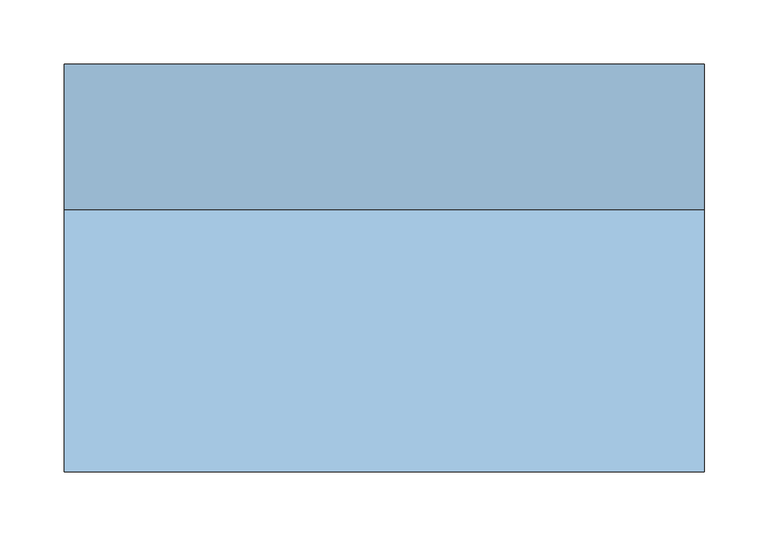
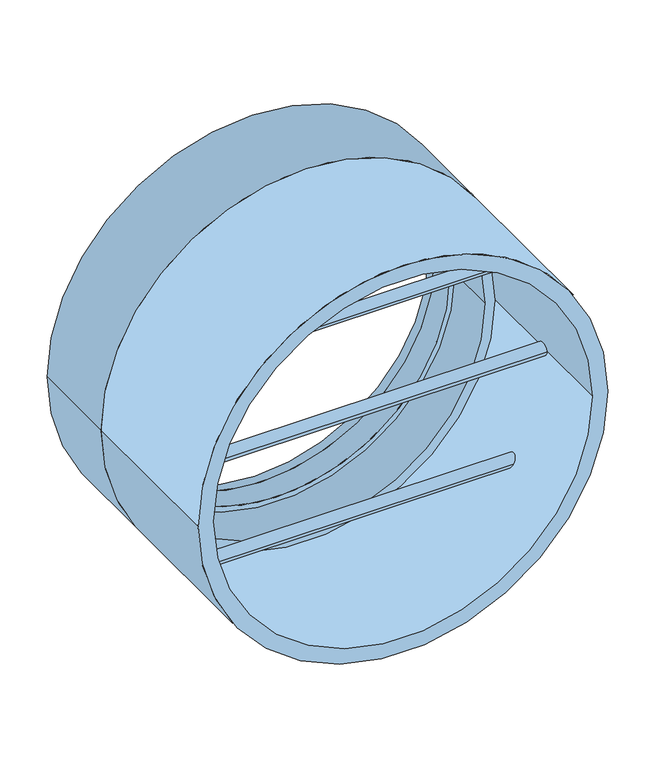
"""IFC4 building model written with IfcOpenShell, lengths in millimetres: window geometry, VENTANA_CAÑO_500 : CAÑO_500mm."""

from ifc_helpers import new_model, si_unit, point, frame, frame_2d, origin, place, context, project, spatial, polyline, circle_curve, trimmed, segment, composite_curve, outline, extrude, source, transform, mapped, element, save
from ifc_brep_helpers import plane_surface, cylinder_surface, revolved_surface, advanced_brep


def window_e00e36fa(model_context):
    return source(origin(), model_context, "Body", "SolidModel", [
        extrude(outline(composite_curve([segment(trimmed(circle_curve(frame_2d((1450.0, 0.0)), 237.3), [point((1450.0, 237.3))], [point((1450.0, -237.3))], False, "CARTESIAN"), True, "CONTINUOUS"), segment(trimmed(circle_curve(frame_2d((1450.0, 0.0)), 237.3), [point((1450.0, -237.3))], [point((1450.0, 237.3))], False, "CARTESIAN"), True, "CONTINUOUS")], self_intersect=False), holes=[composite_curve([segment(trimmed(circle_curve(frame_2d((1450.0, 0.0)), 211.9), [point((1450.0, -211.9))], [point((1450.0, 211.9))], True, "CARTESIAN"), True, "CONTINUOUS"), segment(trimmed(circle_curve(frame_2d((1450.0, 0.0)), 211.9), [point((1450.0, 211.9))], [point((1450.0, -211.9))], True, "CARTESIAN"), True, "CONTINUOUS")], self_intersect=False)]), frame((0.0, 118.25, 0.0), z_axis=(0.0, 1.0, 0.0), x_axis=(0.0, 0.0, 1.0)), (0.0, 0.0, 1.0), 31.75),
        extrude(outline(composite_curve([segment(trimmed(circle_curve(frame_2d((1450.0, 0.0)), 250.0), [point((1450.0, 250.0))], [point((1450.0, -250.0))], False, "CARTESIAN"), True, "CONTINUOUS"), segment(trimmed(circle_curve(frame_2d((1450.0, 0.0)), 250.0), [point((1450.0, -250.0))], [point((1450.0, 250.0))], False, "CARTESIAN"), True, "CONTINUOUS")], self_intersect=False), holes=[composite_curve([segment(trimmed(circle_curve(frame_2d((1450.0, 0.0)), 230.95), [point((1450.0, -230.95))], [point((1450.0, 230.95))], True, "CARTESIAN"), True, "CONTINUOUS"), segment(trimmed(circle_curve(frame_2d((1450.0, 0.0)), 230.95), [point((1450.0, 230.95))], [point((1450.0, -230.95))], True, "CARTESIAN"), True, "CONTINUOUS")], self_intersect=False)]), frame((0.0, -150.0, 0.0), z_axis=(0.0, 1.0, 0.0), x_axis=(0.0, 0.0, 1.0)), (0.0, 0.0, 1.0), 204.75),
        advanced_brep(
        [(-237.3, 118.25, 1450.0), (237.3, 118.25, 1450.0), (237.3, 169.05, 1450.0), (-237.3, 169.05, 1450.0), (-250.0, 169.05, 1450.0), (250.0, 169.05, 1450.0), (218.25, 118.25, 1450.0), (-218.25, 118.25, 1450.0), (-218.25, 54.75, 1450.0), (218.25, 54.75, 1450.0), (250.0, 54.75, 1450.0), (-250.0, 54.75, 1450.0)],
        [
            (0, 1, circle_curve(frame((0.0, 118.25, 1450.0), z_axis=(0.0, -1.0, 0.0), x_axis=(1.0, 0.0, 0.0)), 237.3)),
            (1, 2),
            (2, 3, circle_curve(frame((0.0, 169.05, 1450.0), z_axis=(0.0, 1.0, 0.0), x_axis=(1.0, 0.0, 0.0)), 237.3)),
            (3, 0),
            (1, 0, circle_curve(frame((0.0, 118.25, 1450.0), z_axis=(0.0, -1.0, 0.0), x_axis=(-1.0, 0.0, 0.0)), 237.3)),
            (3, 2, circle_curve(frame((0.0, 169.05, 1450.0), z_axis=(0.0, 1.0, 0.0), x_axis=(-1.0, 0.0, 0.0)), 237.3)),
            (4, 5, circle_curve(frame((0.0, 169.05, 1450.0), z_axis=(0.0, 1.0, 0.0), x_axis=(-1.0, 0.0, 0.0)), 250.0)),
            (5, 4, circle_curve(frame((0.0, 169.05, 1450.0), z_axis=(0.0, 1.0, 0.0), x_axis=(1.0, 0.0, 0.0)), 250.0)),
            (6, 7, circle_curve(frame((0.0, 118.25, 1450.0), z_axis=(0.0, -1.0, 0.0), x_axis=(-1.0, 0.0, 0.0)), 218.25)),
            (7, 6, circle_curve(frame((0.0, 118.25, 1450.0), z_axis=(0.0, -1.0, 0.0), x_axis=(1.0, 0.0, 0.0)), 218.25)),
            (8, 9, circle_curve(frame((0.0, 54.75, 1450.0), z_axis=(0.0, -1.0, 0.0), x_axis=(1.0, 0.0, 0.0)), 218.25)),
            (9, 6),
            (7, 8),
            (5, 10),
            (10, 11, circle_curve(frame((0.0, 54.75, 1450.0), z_axis=(0.0, 1.0, 0.0), x_axis=(1.0, 0.0, 0.0)), 250.0)),
            (11, 4),
            (9, 8, circle_curve(frame((0.0, 54.75, 1450.0), z_axis=(0.0, -1.0, 0.0), x_axis=(-1.0, 0.0, 0.0)), 218.25)),
            (10, 11, circle_curve(frame((0.0, 54.75, 1450.0), z_axis=(0.0, -1.0, 0.0), x_axis=(-1.0, 0.0, 0.0)), 250.0)),
        ],
        [
            revolved_surface(polyline([(237.3, 169.05, 1450.0), (237.3, 118.25, 1450.0)]), (0.0, 162.7, 1450.0), (0.0, 1.0, 0.0)),
            revolved_surface(polyline([(-237.3, 169.05, 1450.0), (-237.3, 118.25, 1450.0)]), (0.0, 162.7, 1450.0), (0.0, 1.0, 0.0)),
            plane_surface(frame((0.0, 169.05, 1450.0), z_axis=(0.0, 1.0, 0.0), x_axis=(-1.0, 0.0, 0.0))),
            plane_surface(frame((0.0, 118.25, 1450.0), z_axis=(0.0, 1.0, 0.0), x_axis=(-1.0, 0.0, 0.0))),
            revolved_surface(polyline([(218.25, 118.25, 1450.0), (218.25, 54.75, 1450.0)]), (0.0, 162.7, 1450.0), (0.0, 1.0, 0.0)),
            cylinder_surface(frame((0.0, 162.7, 1450.0), z_axis=(0.0, 1.0, 0.0), x_axis=(1.0, 0.0, 0.0)), 250.0),
            revolved_surface(polyline([(-218.25, 118.25, 1450.0), (-218.25, 54.75, 1450.0)]), (0.0, 162.7, 1450.0), (0.0, 1.0, 0.0)),
            plane_surface(frame((0.0, 54.75, 1450.0), z_axis=(0.0, -1.0, 0.0), x_axis=(-1.0, 0.0, 0.0))),
            cylinder_surface(frame((0.0, 162.7, 1450.0), z_axis=(0.0, 1.0, 0.0), x_axis=(-1.0, 0.0, 0.0)), 250.0),
        ],
        [
            (0, [[1, 2, 3, 4]]),
            (1, [[5, -4, 6, -2]]),
            (2, [[7, 8], [-6, -3]]),
            (3, [[-5, -1], [9, 10]]),
            (4, [[11, 12, -10, 13]]),
            (5, [[-8, 14, 15, 16]]),
            (6, [[17, -13, -9, -12]]),
            (7, [[18, -15], [-17, -11]]),
            (8, [[-7, -16, -18, -14]]),
        ],
    ),
        extrude(outline(composite_curve([segment(trimmed(circle_curve(frame_2d((1450.0, 0.0)), 237.3), [point((1450.0, 237.3))], [point((1450.0, -237.3))], False, "CARTESIAN"), True, "CONTINUOUS"), segment(trimmed(circle_curve(frame_2d((1450.0, 0.0)), 237.3), [point((1450.0, -237.3))], [point((1450.0, 237.3))], False, "CARTESIAN"), True, "CONTINUOUS")], self_intersect=False), holes=[composite_curve([segment(trimmed(circle_curve(frame_2d((1450.0, 0.0)), 211.9), [point((1450.0, -211.9))], [point((1450.0, 211.9))], True, "CARTESIAN"), True, "CONTINUOUS"), segment(trimmed(circle_curve(frame_2d((1450.0, 0.0)), 211.9), [point((1450.0, 211.9))], [point((1450.0, -211.9))], True, "CARTESIAN"), True, "CONTINUOUS")], self_intersect=False)]), frame((0.0, 150.0, 0.0), z_axis=(0.0, 1.0, 0.0), x_axis=(0.0, 0.0, 1.0)), (0.0, 0.0, 1.0), 12.7),
        extrude(outline(composite_curve([segment(trimmed(circle_curve(frame_2d((-47.625, 1320.0)), 8.0), [point((-55.625, 1320.0))], [point((-39.625, 1320.0))], False, "CARTESIAN"), True, "CONTINUOUS"), segment(trimmed(circle_curve(frame_2d((-47.625, 1320.0)), 8.0), [point((-39.625, 1320.0))], [point((-55.625, 1320.0))], False, "CARTESIAN"), True, "CONTINUOUS")], self_intersect=False)), frame((-200.0, 0.0, 0.0), z_axis=(1.0, 0.0, 0.0), x_axis=(0.0, 1.0, 0.0)), (0.0, 0.0, 1.0), 400.0),
        extrude(outline(composite_curve([segment(trimmed(circle_curve(frame_2d((-47.625, 1580.0)), 8.0), [point((-55.625, 1580.0))], [point((-39.625, 1580.0))], False, "CARTESIAN"), True, "CONTINUOUS"), segment(trimmed(circle_curve(frame_2d((-47.625, 1580.0)), 8.0), [point((-39.625, 1580.0))], [point((-55.625, 1580.0))], False, "CARTESIAN"), True, "CONTINUOUS")], self_intersect=False)), frame((-200.0, 0.0, 0.0), z_axis=(1.0, 0.0, 0.0), x_axis=(0.0, 1.0, 0.0)), (0.0, 0.0, 1.0), 400.0),
        extrude(outline(composite_curve([segment(trimmed(circle_curve(frame_2d((-47.625, 1450.0)), 8.0), [point((-55.625, 1450.0))], [point((-39.625, 1450.0))], False, "CARTESIAN"), True, "CONTINUOUS"), segment(trimmed(circle_curve(frame_2d((-47.625, 1450.0)), 8.0), [point((-39.625, 1450.0))], [point((-55.625, 1450.0))], False, "CARTESIAN"), True, "CONTINUOUS")], self_intersect=False)), frame((-235.0, 0.0, 0.0), z_axis=(1.0, 0.0, 0.0), x_axis=(0.0, 1.0, 0.0)), (0.0, 0.0, 1.0), 470.0),
    ])


if __name__ == "__main__":
    model = new_model("IFC4")
    model_context = context("Model", 3, world=origin())
    ifc_project = project(units=[si_unit("LENGTHUNIT", "METRE", prefix="MILLI")], contexts=[model_context])
    site = spatial("IfcSite", under=ifc_project)
    building = spatial("IfcBuilding", under=site)
    placement = place(None, origin())
    window_shape = window_e00e36fa(model_context)
    element("IfcWindow", 1, ObjectType="VENTANA_CAÑO_500 : CAÑO_500mm", at=placement, inside=building, context=model_context, shape_type="MappedRepresentation", body=[
        mapped(window_shape, transform((0.0, 0.0, 0.0), x_axis=(1.0, 0.0, 0.0), y_axis=(0.0, 1.0, 0.0), z_axis=(0.0, 0.0, 1.0))),
    ])
    save(model, "model.ifc")
